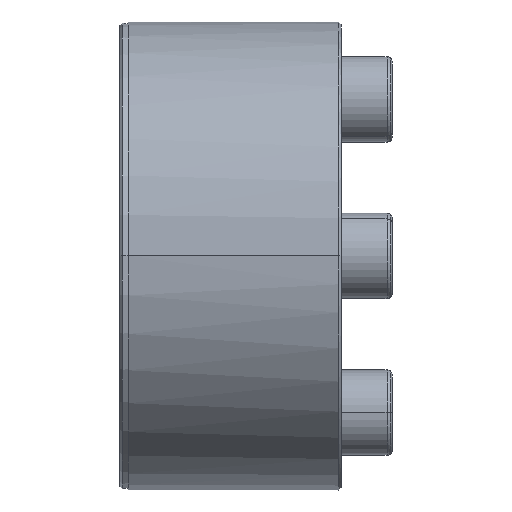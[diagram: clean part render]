
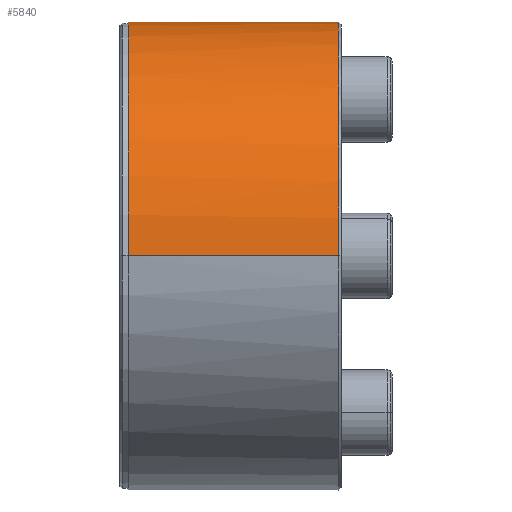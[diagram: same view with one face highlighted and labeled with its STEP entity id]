
A CAD part, top view. The second image highlights one B-rep face of the part: STEP entity #5840.
In plain terms, the highlighted cylindrical face has radius 27.5 mm (diameter 55 mm), a partial arc.
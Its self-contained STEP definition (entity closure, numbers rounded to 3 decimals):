
#181 = EDGE_CURVE ( 'NONE', #4402, #7377, #3665, .T. ) ;
#293 = CARTESIAN_POINT ( 'NONE',  ( 25.689, 18.172, 20.719 ) ) ;
#335 = CARTESIAN_POINT ( 'NONE',  ( 25.689, 1.799, 27.5 ) ) ;
#482 = VERTEX_POINT ( 'NONE', #2449 ) ;
#521 = ORIENTED_EDGE ( 'NONE', *, *, #5034, .T. ) ;
#759 = CARTESIAN_POINT ( 'NONE',  ( 25.689, 20.718, 18.173 ) ) ;
#836 = CARTESIAN_POINT ( 'NONE',  ( 25.689, 12.186, -24.718 ) ) ;
#916 = CARTESIAN_POINT ( 'NONE',  ( 25.689, 21.865, -16.775 ) ) ;
#998 = ORIENTED_EDGE ( 'NONE', *, *, #181, .T. ) ;
#1011 = CARTESIAN_POINT ( 'NONE',  ( 0.989, 0., 27.5 ) ) ;
#1381 = CARTESIAN_POINT ( 'NONE',  ( 25.689, 26.62, 7.13 ) ) ;
#1418 = CARTESIAN_POINT ( 'NONE',  ( 25.689, 27.5, 1.8 ) ) ;
#1453 = CARTESIAN_POINT ( 'NONE',  ( 25.689, 23.865, -13.782 ) ) ;
#1924 = CARTESIAN_POINT ( 'NONE',  ( 25.689, 3.598, -27.323 ) ) ;
#1997 = CARTESIAN_POINT ( 'NONE',  ( 25.689, 13.781, -23.866 ) ) ;
#2032 = CARTESIAN_POINT ( 'NONE',  ( 25.689, 16.774, -21.866 ) ) ;
#2335 = EDGE_LOOP ( 'NONE', ( #5137, #7470, #521, #998 ) ) ;
#2449 = CARTESIAN_POINT ( 'NONE',  ( 0.989, 0., -27.5 ) ) ;
#2529 = CARTESIAN_POINT ( 'NONE',  ( 25.689, 21.865, 16.775 ) ) ;
#2585 = DIRECTION ( 'NONE',  ( 1., 0., 0. ) ) ;
#2648 = VECTOR ( 'NONE', #2585, 1000. ) ;
#3104 = CARTESIAN_POINT ( 'NONE',  ( 25.689, 24.718, 12.187 ) ) ;
#3143 = CARTESIAN_POINT ( 'NONE',  ( 25.689, 26.62, -7.13 ) ) ;
#3154 = CARTESIAN_POINT ( 'NONE',  ( 25.689, -0.001, -27.5 ) ) ;
#3177 = CARTESIAN_POINT ( 'NONE',  ( 25.689, 12.186, 24.718 ) ) ;
#3217 = CARTESIAN_POINT ( 'NONE',  ( 25.689, 13.781, 23.866 ) ) ;
#3235 = FACE_OUTER_BOUND ( 'NONE', #2335, .T. ) ;
#3665 = B_SPLINE_CURVE_WITH_KNOTS ( 'NONE', 3,
 ( #5557, #335, #4832, #6033, #4942, #3177, #3217, #4240, #293, #759, #2529, #3747, #3104, #7176, #1381, #7285, #1418, #3667, #6709, #3143, #4280, #4983, #1453, #916, #6110, #3706, #2032, #1997, #836, #4358, #7321, #1924, #7210, #6596 ),
 .UNSPECIFIED., .F., .F.,
 ( 4, 2, 2, 2, 2, 2, 2, 2, 2, 2, 2, 2, 2, 2, 2, 2, 4 ),
 ( 0.247, 0.279, 0.31, 0.342, 0.374, 0.405, 0.437, 0.468, 0.5, 0.532, 0.563, 0.595, 0.626, 0.658, 0.69, 0.721, 0.753 ),
 .UNSPECIFIED. ) ;
#3667 = CARTESIAN_POINT ( 'NONE',  ( 25.689, 27.5, -1.8 ) ) ;
#3706 = CARTESIAN_POINT ( 'NONE',  ( 25.689, 18.172, -20.719 ) ) ;
#3747 = CARTESIAN_POINT ( 'NONE',  ( 25.689, 23.865, 13.782 ) ) ;
#3869 = DIRECTION ( 'NONE',  ( 1., 0., 0. ) ) ;
#4107 = AXIS2_PLACEMENT_3D ( 'NONE', #6461, #4682, #7063 ) ;
#4240 = CARTESIAN_POINT ( 'NONE',  ( 25.689, 16.774, 21.866 ) ) ;
#4261 = LINE ( 'NONE', #5358, #2648 ) ;
#4280 = CARTESIAN_POINT ( 'NONE',  ( 25.689, 26.095, -8.861 ) ) ;
#4304 = CARTESIAN_POINT ( 'NONE',  ( 0.989, 0., 0. ) ) ;
#4358 = CARTESIAN_POINT ( 'NONE',  ( 25.689, 8.86, -26.096 ) ) ;
#4402 = VERTEX_POINT ( 'NONE', #6855 ) ;
#4460 = EDGE_CURVE ( 'NONE', #482, #7377, #4261, .T. ) ;
#4682 = DIRECTION ( 'NONE',  ( -1., 0., 0. ) ) ;
#4716 = VERTEX_POINT ( 'NONE', #1011 ) ;
#4832 = CARTESIAN_POINT ( 'NONE',  ( 25.689, 3.598, 27.323 ) ) ;
#4942 = CARTESIAN_POINT ( 'NONE',  ( 25.689, 8.86, 26.096 ) ) ;
#4983 = CARTESIAN_POINT ( 'NONE',  ( 25.689, 24.718, -12.187 ) ) ;
#5034 = EDGE_CURVE ( 'NONE', #4716, #4402, #6156, .T. ) ;
#5137 = ORIENTED_EDGE ( 'NONE', *, *, #4460, .F. ) ;
#5358 = CARTESIAN_POINT ( 'NONE',  ( 0.989, 0., -27.5 ) ) ;
#5557 = CARTESIAN_POINT ( 'NONE',  ( 25.689, -0.001, 27.5 ) ) ;
#5580 = DIRECTION ( 'NONE',  ( 0., 0., 1. ) ) ;
#5840 = ADVANCED_FACE ( 'NONE', ( #3235 ), #6805, .T. ) ;
#6033 = CARTESIAN_POINT ( 'NONE',  ( 25.689, 7.129, 26.621 ) ) ;
#6110 = CARTESIAN_POINT ( 'NONE',  ( 25.689, 20.718, -18.173 ) ) ;
#6118 = DIRECTION ( 'NONE',  ( 1., 0., 0. ) ) ;
#6156 = LINE ( 'NONE', #6678, #6579 ) ;
#6461 = CARTESIAN_POINT ( 'NONE',  ( 0.989, 0., 0. ) ) ;
#6579 = VECTOR ( 'NONE', #6118, 1000. ) ;
#6596 = CARTESIAN_POINT ( 'NONE',  ( 25.689, -0.001, -27.5 ) ) ;
#6678 = CARTESIAN_POINT ( 'NONE',  ( 0.989, 0., 27.5 ) ) ;
#6709 = CARTESIAN_POINT ( 'NONE',  ( 25.689, 27.323, -3.6 ) ) ;
#6762 = EDGE_CURVE ( 'NONE', #4716, #482, #7418, .T. ) ;
#6805 = CYLINDRICAL_SURFACE ( 'NONE', #7459, 27.5 ) ;
#6855 = CARTESIAN_POINT ( 'NONE',  ( 25.689, -0.001, 27.5 ) ) ;
#7063 = DIRECTION ( 'NONE',  ( 0., -0.999, 0.036 ) ) ;
#7176 = CARTESIAN_POINT ( 'NONE',  ( 25.689, 26.095, 8.861 ) ) ;
#7210 = CARTESIAN_POINT ( 'NONE',  ( 25.689, 1.799, -27.5 ) ) ;
#7285 = CARTESIAN_POINT ( 'NONE',  ( 25.689, 27.323, 3.6 ) ) ;
#7321 = CARTESIAN_POINT ( 'NONE',  ( 25.689, 7.129, -26.621 ) ) ;
#7377 = VERTEX_POINT ( 'NONE', #3154 ) ;
#7418 = CIRCLE ( 'NONE', #4107, 27.5 ) ;
#7459 = AXIS2_PLACEMENT_3D ( 'NONE', #4304, #3869, #5580 ) ;
#7470 = ORIENTED_EDGE ( 'NONE', *, *, #6762, .F. ) ;
